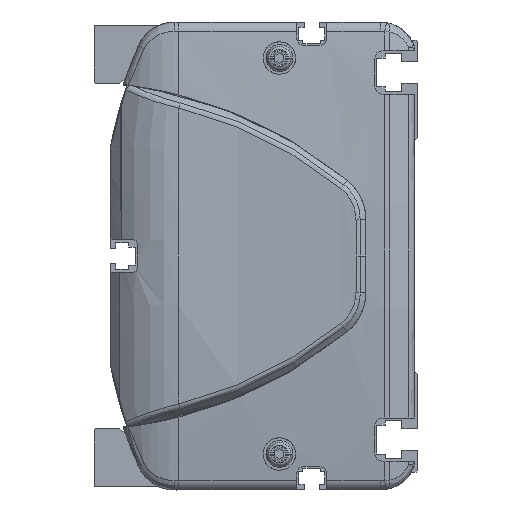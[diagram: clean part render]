
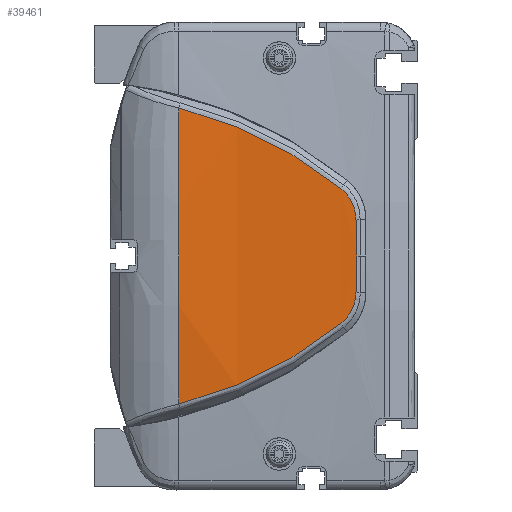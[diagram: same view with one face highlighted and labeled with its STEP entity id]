
A CAD part, left-side view. The second image highlights one B-rep face of the part: STEP entity #39461.
In plain terms, the highlighted cylindrical face has radius 500 mm (diameter 1000 mm), a partial arc.
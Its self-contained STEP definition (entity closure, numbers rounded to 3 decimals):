
#35715=CARTESIAN_POINT('',(486.,66.362,0.));
#35716=DIRECTION('',(0.,-1.,0.));
#35717=DIRECTION('',(-0.997,0.,0.082));
#35718=AXIS2_PLACEMENT_3D('',#35715,#35716,#35717);
#36597=CARTESIAN_POINT('',(-13.648,21.313,
-18.759));
#36598=CARTESIAN_POINT('',(-13.449,27.904,
-24.058));
#36599=CARTESIAN_POINT('',(-12.934,42.195,
-33.27));
#36600=CARTESIAN_POINT('',(-12.471,58.156,
-39.127));
#36601=CARTESIAN_POINT('',(-12.306,66.362,
-41.121));
#36603=CARTESIAN_POINT('',(-12.306,66.362,
41.121));
#36604=CARTESIAN_POINT('',(-12.471,58.156,
39.127));
#36605=CARTESIAN_POINT('',(-12.934,42.195,
33.27));
#36606=CARTESIAN_POINT('',(-13.449,27.904,
24.058));
#36607=CARTESIAN_POINT('',(-13.648,21.313,
18.759));
#36609=CARTESIAN_POINT('',(-13.648,21.313,
18.759));
#36610=CARTESIAN_POINT('',(-13.686,20.035,
17.736));
#36611=CARTESIAN_POINT('',(-13.779,17.936,
15.107));
#36612=CARTESIAN_POINT('',(-13.863,17.152,
11.827));
#36613=CARTESIAN_POINT('',(-13.896,17.124,
10.178));
#36615=CARTESIAN_POINT('',(-13.896,17.124,
10.178));
#36616=CARTESIAN_POINT('',(-13.92,17.107,
9.026));
#36617=CARTESIAN_POINT('',(-13.959,17.067,
6.736));
#36618=CARTESIAN_POINT('',(-13.993,16.98,
3.341));
#36619=CARTESIAN_POINT('',(-14.,16.898,
1.109));
#36620=CARTESIAN_POINT('',(-14.,16.849,
0.));
#36622=CARTESIAN_POINT('',(-14.,16.849,
0.));
#36623=CARTESIAN_POINT('',(-14.,16.898,
-1.109));
#36624=CARTESIAN_POINT('',(-13.993,16.98,
-3.342));
#36625=CARTESIAN_POINT('',(-13.959,17.067,
-6.735));
#36626=CARTESIAN_POINT('',(-13.92,17.107,
-9.028));
#36627=CARTESIAN_POINT('',(-13.896,17.124,
-10.18));
#36629=CARTESIAN_POINT('',(-13.896,17.124,
-10.18));
#36630=CARTESIAN_POINT('',(-13.863,17.152,
-11.828));
#36631=CARTESIAN_POINT('',(-13.779,17.937,
-15.109));
#36632=CARTESIAN_POINT('',(-13.686,20.035,
-17.736));
#36633=CARTESIAN_POINT('',(-13.648,21.313,
-18.759));
#37283=VERTEX_POINT('',#36597);
#37284=VERTEX_POINT('',#36601);
#37285=CARTESIAN_POINT('',(-12.306,66.362,
41.121));
#37286=VERTEX_POINT('',#37285);
#37287=VERTEX_POINT('',#36607);
#37288=VERTEX_POINT('',#36613);
#37289=VERTEX_POINT('',#36620);
#37290=VERTEX_POINT('',#36627);
#39442=CARTESIAN_POINT('',(486.,8.006,0.));
#39443=DIRECTION('',(0.,1.,0.));
#39444=DIRECTION('',(1.,0.,0.));
#39445=AXIS2_PLACEMENT_3D('',#39442,#39443,#39444);
#39446=CYLINDRICAL_SURFACE('',#39445,500.);
#39448=ORIENTED_EDGE('',*,*,#39447,.T.);
#39449=ORIENTED_EDGE('',*,*,#38085,.F.);
#39451=ORIENTED_EDGE('',*,*,#39450,.T.);
#39453=ORIENTED_EDGE('',*,*,#39452,.T.);
#39455=ORIENTED_EDGE('',*,*,#39454,.T.);
#39457=ORIENTED_EDGE('',*,*,#39456,.T.);
#39458=ORIENTED_EDGE('',*,*,#39432,.T.);
#39459=EDGE_LOOP('',(#39448,#39449,#39451,#39453,#39455,#39457,#39458));
#39460=FACE_OUTER_BOUND('',#39459,.F.);
#39461=ADVANCED_FACE('',(#39460),#39446,.T.);
#35719=CIRCLE('',#35718,500.);
#36602=B_SPLINE_CURVE_WITH_KNOTS('',3,(#36597,#36598,#36599,#36600,#36601),
.UNSPECIFIED.,.F.,.F.,(4,1,4),(0.,0.5,1.),.UNSPECIFIED.);
#36608=B_SPLINE_CURVE_WITH_KNOTS('',3,(#36603,#36604,#36605,#36606,#36607),
.UNSPECIFIED.,.F.,.F.,(4,1,4),(0.,0.5,1.),.UNSPECIFIED.);
#36614=B_SPLINE_CURVE_WITH_KNOTS('',3,(#36609,#36610,#36611,#36612,#36613),
.UNSPECIFIED.,.F.,.F.,(4,1,4),(0.,0.5,1.),.UNSPECIFIED.);
#36621=B_SPLINE_CURVE_WITH_KNOTS('',3,(#36615,#36616,#36617,#36618,#36619,
#36620),.UNSPECIFIED.,.F.,.F.,(4,1,1,4),(0.,0.333,
0.667,1.),.UNSPECIFIED.);
#36628=B_SPLINE_CURVE_WITH_KNOTS('',3,(#36622,#36623,#36624,#36625,#36626,
#36627),.UNSPECIFIED.,.F.,.F.,(4,1,1,4),(0.,0.333,
0.667,1.),.UNSPECIFIED.);
#36634=B_SPLINE_CURVE_WITH_KNOTS('',3,(#36629,#36630,#36631,#36632,#36633),
.UNSPECIFIED.,.F.,.F.,(4,1,4),(0.,0.5,1.),.UNSPECIFIED.);
#38085=EDGE_CURVE('',#37286,#37284,#35719,.T.);
#39432=EDGE_CURVE('',#37290,#37283,#36634,.T.);
#39447=EDGE_CURVE('',#37283,#37284,#36602,.T.);
#39450=EDGE_CURVE('',#37286,#37287,#36608,.T.);
#39452=EDGE_CURVE('',#37287,#37288,#36614,.T.);
#39454=EDGE_CURVE('',#37288,#37289,#36621,.T.);
#39456=EDGE_CURVE('',#37289,#37290,#36628,.T.);
